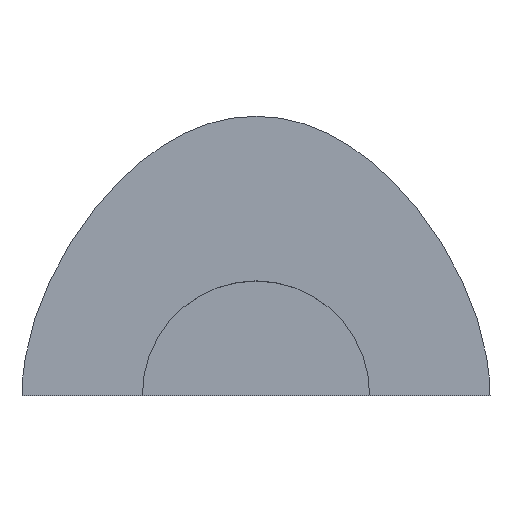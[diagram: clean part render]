
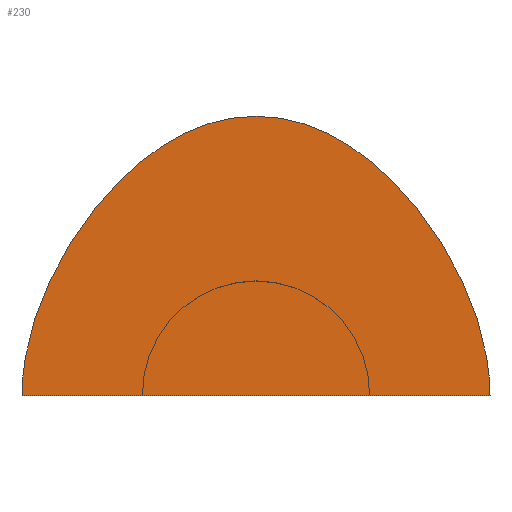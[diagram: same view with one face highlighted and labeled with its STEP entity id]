
A CAD part, top view. The second image highlights one B-rep face of the part: STEP entity #230.
In plain terms, the highlighted planar face has unit normal (0, 0, 1).
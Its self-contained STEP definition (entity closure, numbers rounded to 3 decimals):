
#193=CARTESIAN_POINT('Axis2P3D Location',(0.,49.891,0.)) ;
#198=CARTESIAN_POINT('Line Origine',(0.,0.,0.)) ;
#202=CARTESIAN_POINT('Vertex',(-103.,0.,0.)) ;
#204=CARTESIAN_POINT('Vertex',(103.,0.,0.)) ;
#208=CARTESIAN_POINT('Control Point',(0.,123.,0.)) ;
#209=CARTESIAN_POINT('Control Point',(32.086,123.,0.)) ;
#210=CARTESIAN_POINT('Control Point',(61.847,104.282,0.)) ;
#211=CARTESIAN_POINT('Control Point',(89.282,66.847,0.)) ;
#212=CARTESIAN_POINT('Control Point',(103.,32.086,0.)) ;
#213=CARTESIAN_POINT('Control Point',(103.,0.,0.)) ;
#214=CARTESIAN_POINT('Vertex',(0.,123.,0.)) ;
#218=CARTESIAN_POINT('Control Point',(0.,123.,0.)) ;
#219=CARTESIAN_POINT('Control Point',(-32.086,123.,0.)) ;
#220=CARTESIAN_POINT('Control Point',(-61.847,104.282,0.)) ;
#221=CARTESIAN_POINT('Control Point',(-89.282,66.847,0.)) ;
#222=CARTESIAN_POINT('Control Point',(-103.,32.086,0.)) ;
#223=CARTESIAN_POINT('Control Point',(-103.,0.,0.)) ;
#194=DIRECTION('Axis2P3D Direction',(0.,0.,1.)) ;
#195=DIRECTION('Axis2P3D XDirection',(1.,0.,0.)) ;
#199=DIRECTION('Vector Direction',(1.,0.,0.)) ;
#196=AXIS2_PLACEMENT_3D('Plane Axis2P3D',#193,#194,#195) ;
#226=ORIENTED_EDGE('',*,*,#206,.T.) ;
#227=ORIENTED_EDGE('',*,*,#216,.T.) ;
#228=ORIENTED_EDGE('',*,*,#224,.T.) ;
#200=VECTOR('Line Direction',#199,1.) ;
#230=ADVANCED_FACE('Fill.1',(#229),#197,.T.) ;
#207=B_SPLINE_CURVE_WITH_KNOTS('',5,(#208,#209,#210,#211,#212,#213),.UNSPECIFIED.,.F.,.U.,(6,6),(0.,160.431),.UNSPECIFIED.) ;
#217=B_SPLINE_CURVE_WITH_KNOTS('',5,(#218,#219,#220,#221,#222,#223),.UNSPECIFIED.,.F.,.U.,(6,6),(0.,160.431),.UNSPECIFIED.) ;
#206=EDGE_CURVE('',#203,#205,#201,.T.) ;
#216=EDGE_CURVE('',#205,#215,#207,.F.) ;
#224=EDGE_CURVE('',#215,#203,#217,.T.) ;
#225=EDGE_LOOP('',(#226,#227,#228)) ;
#229=FACE_OUTER_BOUND('',#225,.T.) ;
#201=LINE('Line',#198,#200) ;
#197=PLANE('',#196) ;
#203=VERTEX_POINT('',#202) ;
#205=VERTEX_POINT('',#204) ;
#215=VERTEX_POINT('',#214) ;
